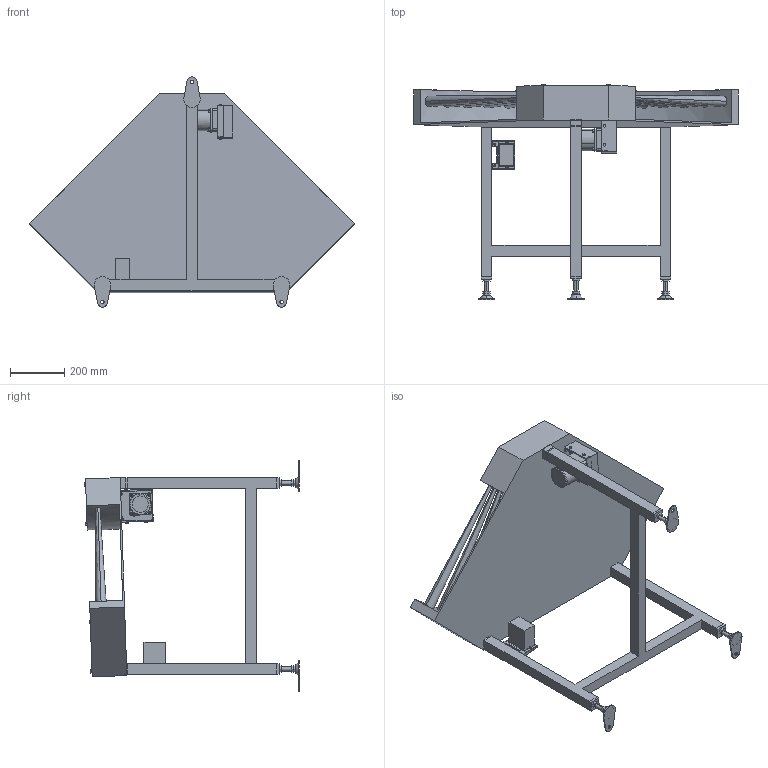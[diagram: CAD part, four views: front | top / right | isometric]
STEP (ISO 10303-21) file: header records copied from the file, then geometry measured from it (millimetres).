
FILE_DESCRIPTION( (''), '2;1');
FILE_NAME ('GT10H-303-500-R-K-75.stp','2025-02-17T15:48:53',(''),(''),'spGate 20.6.2 (****-****-****-****)','','');
FILE_SCHEMA (('AUTOMOTIVE_DESIGN'));
Length unit declared in the file: millimetre
Products named in the file (44): NewModel; TEMP_X_T-prt0; TEMP_X_T-prt1; TEMP_X_T-prt2; TEMP_X_T-prt3; TEMP_X_T-prt4; TEMP_X_T-prt5; TEMP_X_T-prt6; TEMP_X_T-prt7; TEMP_X_T-prt8; TEMP_X_T-prt9; TEMP_X_T-prt10; TEMP_X_T-prt11; TEMP_X_T-prt12; TEMP_X_T-prt13; TEMP_X_T-prt14; TEMP_X_T-prt15; TEMP_X_T-prt16; TEMP_X_T-prt17; TEMP_X_T-prt18; TEMP_X_T-prt19; TEMP_X_T-prt20; TEMP_X_T-prt21; TEMP_X_T-prt22; TEMP_X_T-prt23; TEMP_X_T-prt24; TEMP_X_T-prt25; TEMP_X_T-prt26; TEMP_X_T-prt27; TEMP_X_T-prt28; TEMP_X_T-prt29; TEMP_X_T-prt30; TEMP_X_T-prt31; TEMP_X_T-prt32; TEMP_X_T-prt33; TEMP_X_T-prt34; TEMP_X_T-prt35; TEMP_X_T-prt36; TEMP_X_T-prt37; TEMP_X_T-prt38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
Assembly tree (43 placements, depth 2):
  NewModel
    TEMP_X_T-prt0
    TEMP_X_T-prt1
    TEMP_X_T-prt2
    TEMP_X_T-prt3
    TEMP_X_T-prt4
    TEMP_X_T-prt5
    TEMP_X_T-prt6
    TEMP_X_T-prt7
    TEMP_X_T-prt8
    TEMP_X_T-prt9
    TEMP_X_T-prt10
    TEMP_X_T-prt11
    TEMP_X_T-prt12
    TEMP_X_T-prt13
    TEMP_X_T-prt14
    TEMP_X_T-prt15
    TEMP_X_T-prt16
    TEMP_X_T-prt17
    TEMP_X_T-prt18
    TEMP_X_T-prt19
    TEMP_X_T-prt20
    TEMP_X_T-prt21
    TEMP_X_T-prt22
    TEMP_X_T-prt23
    TEMP_X_T-prt24
    TEMP_X_T-prt25
    TEMP_X_T-prt26
    TEMP_X_T-prt27
    TEMP_X_T-prt28
    TEMP_X_T-prt29
    TEMP_X_T-prt30
    TEMP_X_T-prt31
    TEMP_X_T-prt32
    TEMP_X_T-prt33
    TEMP_X_T-prt34
    TEMP_X_T-prt35
    TEMP_X_T-prt36
    TEMP_X_T-prt37
    TEMP_X_T-prt38
    TEMP_X_T-prt39
    TEMP_X_T-prt40
    TEMP_X_T-prt41
    TEMP_X_T-prt42
Bounding box: 1195.01 x 792.11 x 849 mm (x, y, z)
Volume: 31889770.6 mm3; surface area: 3011449.9 mm2
Topology: 43 solids, 43 shells, 1060 faces, 2487 edges, 1566 vertices
Faces by surface type: plane 603, cylinder 252, bspline 205
Entity records: 56367 total; most frequent: CARTESIAN_POINT 11768, ORIENTED_EDGE 4934, DIRECTION 4547, COLOUR_RGB 3570, PRESENTATION_STYLE_ASSIGNMENT 3570, STYLED_ITEM 3570, EDGE_CURVE 2467, DRAUGHTING_PRE_DEFINED_CURVE_FONT 2467
